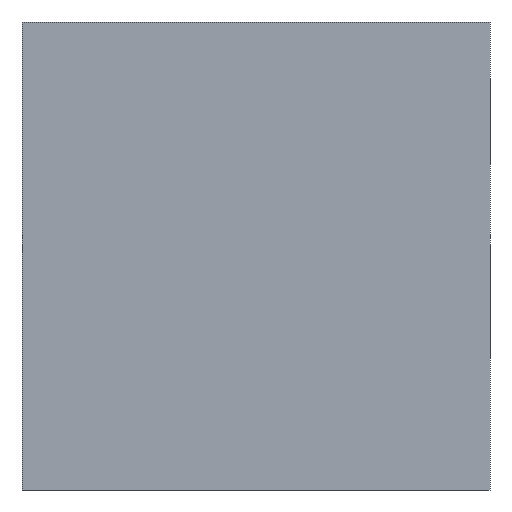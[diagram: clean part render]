
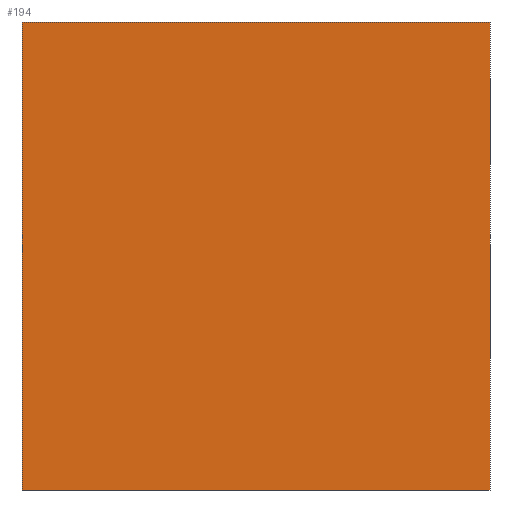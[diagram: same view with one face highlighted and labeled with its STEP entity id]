
A CAD part, front view. The second image highlights one B-rep face of the part: STEP entity #194.
In plain terms, the highlighted planar face has unit normal (0, -1, 0).
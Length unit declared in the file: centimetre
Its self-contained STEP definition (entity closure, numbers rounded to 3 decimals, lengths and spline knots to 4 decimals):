
#180 = DIRECTION ( 'NONE',  ( 1., 0., 0. ) ) ;
#194 = ADVANCED_FACE ( 'NONE', ( #1196 ), #1443, .F. ) ;
#205 = CARTESIAN_POINT ( 'NONE',  ( 1000., 0., 1000. ) ) ;
#244 = DIRECTION ( 'NONE',  ( 0., 0., -1. ) ) ;
#267 = VECTOR ( 'NONE', #180, 100. ) ;
#315 = DIRECTION ( 'NONE',  ( 0., 1., 0. ) ) ;
#329 = CARTESIAN_POINT ( 'NONE',  ( 1000., 0., 0. ) ) ;
#367 = EDGE_CURVE ( 'NONE', #883, #1136, #1515, .T. ) ;
#431 = ORIENTED_EDGE ( 'NONE', *, *, #848, .T. ) ;
#441 = ORIENTED_EDGE ( 'NONE', *, *, #367, .T. ) ;
#457 = DIRECTION ( 'NONE',  ( 0., 0., 1. ) ) ;
#469 = VERTEX_POINT ( 'NONE', #205 ) ;
#483 = CARTESIAN_POINT ( 'NONE',  ( 0., 0., 0. ) ) ;
#549 = ORIENTED_EDGE ( 'NONE', *, *, #1413, .F. ) ;
#555 = VECTOR ( 'NONE', #655, 100. ) ;
#624 = VECTOR ( 'NONE', #786, 100. ) ;
#655 = DIRECTION ( 'NONE',  ( 1., 0., 0. ) ) ;
#786 = DIRECTION ( 'NONE',  ( 0., 0., -1. ) ) ;
#808 = LINE ( 'NONE', #1167, #267 ) ;
#843 = CARTESIAN_POINT ( 'NONE',  ( 0., 0., 1000. ) ) ;
#848 = EDGE_CURVE ( 'NONE', #926, #883, #1370, .T. ) ;
#883 = VERTEX_POINT ( 'NONE', #483 ) ;
#916 = LINE ( 'NONE', #1416, #624 ) ;
#926 = VERTEX_POINT ( 'NONE', #1552 ) ;
#980 = EDGE_CURVE ( 'NONE', #469, #1136, #916, .T. ) ;
#1136 = VERTEX_POINT ( 'NONE', #329 ) ;
#1167 = CARTESIAN_POINT ( 'NONE',  ( 0., 0., 1000. ) ) ;
#1196 = FACE_OUTER_BOUND ( 'NONE', #1226, .T. ) ;
#1226 = EDGE_LOOP ( 'NONE', ( #441, #1429, #549, #431 ) ) ;
#1260 = CARTESIAN_POINT ( 'NONE',  ( 0., 0., 0. ) ) ;
#1370 = LINE ( 'NONE', #1386, #1384 ) ;
#1384 = VECTOR ( 'NONE', #244, 100. ) ;
#1386 = CARTESIAN_POINT ( 'NONE',  ( 0., 0., 1000. ) ) ;
#1413 = EDGE_CURVE ( 'NONE', #926, #469, #808, .T. ) ;
#1416 = CARTESIAN_POINT ( 'NONE',  ( 1000., 0., 1000. ) ) ;
#1429 = ORIENTED_EDGE ( 'NONE', *, *, #980, .F. ) ;
#1443 = PLANE ( 'NONE',  #1452 ) ;
#1452 = AXIS2_PLACEMENT_3D ( 'NONE', #843, #315, #457 ) ;
#1515 = LINE ( 'NONE', #1260, #555 ) ;
#1552 = CARTESIAN_POINT ( 'NONE',  ( 0., 0., 1000. ) ) ;
